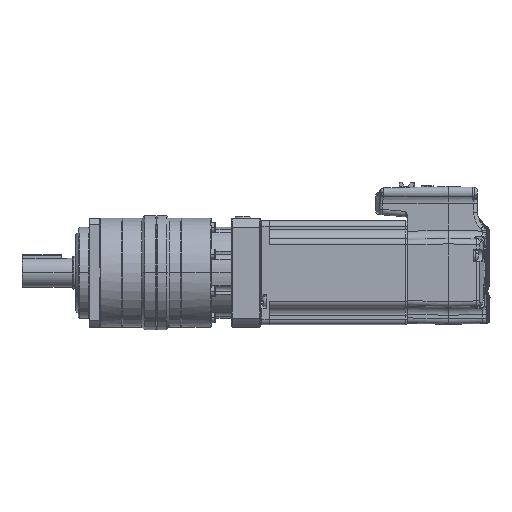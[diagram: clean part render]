
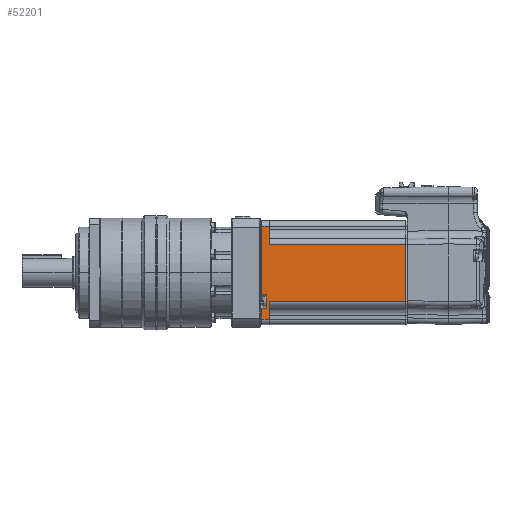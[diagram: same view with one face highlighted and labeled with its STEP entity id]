
A CAD part, left-side view. The second image highlights one B-rep face of the part: STEP entity #52201.
In plain terms, the highlighted planar face has unit normal (-1, 0, 0).
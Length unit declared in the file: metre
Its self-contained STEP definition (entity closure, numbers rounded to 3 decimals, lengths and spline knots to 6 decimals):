
#2061 = AXIS2_PLACEMENT_3D ( 'NONE', #11760, #11773, #11776 ) ;
#5262 = FACE_OUTER_BOUND ( 'NONE', #81135, .T. ) ;
#11760 = CARTESIAN_POINT ( 'NONE',  ( -0.028519, 0.0075, -0.0285 ) ) ;
#11767 = PLANE ( 'NONE',  #2061 ) ;
#11773 = DIRECTION ( 'NONE',  ( -1., 0., 0. ) ) ;
#11776 = DIRECTION ( 'NONE',  ( 0., 0., 1. ) ) ;
#13181 = CARTESIAN_POINT ( 'NONE',  ( -0.028519, 0.0875, -0.0122 ) ) ;
#13187 = CARTESIAN_POINT ( 'NONE',  ( -0.028519, 0.085, -0.0122 ) ) ;
#13191 = CARTESIAN_POINT ( 'NONE',  ( -0.028519, 0.085, -0.0196 ) ) ;
#13197 = CARTESIAN_POINT ( 'NONE',  ( -0.028519, 0.0875, -0.0196 ) ) ;
#13201 = CARTESIAN_POINT ( 'NONE',  ( -0.028519, 0.0875, -0.0255 ) ) ;
#13207 = CARTESIAN_POINT ( 'NONE',  ( -0.028519, 0.0835, -0.0255 ) ) ;
#13422 = CARTESIAN_POINT ( 'NONE',  ( -0.028519, 0.0085, -0.01577 ) ) ;
#13521 = CARTESIAN_POINT ( 'NONE',  ( -0.028519, 0.0085, 0.01577 ) ) ;
#13598 = CARTESIAN_POINT ( 'NONE',  ( -0.028519, 0.0835, 0.01577 ) ) ;
#13602 = CARTESIAN_POINT ( 'NONE',  ( -0.028519, 0.0835, -0.01577 ) ) ;
#13620 = CARTESIAN_POINT ( 'NONE',  ( -0.028519, 0.0835, 0.0255 ) ) ;
#13624 = CARTESIAN_POINT ( 'NONE',  ( -0.028519, 0.0875, 0.0255 ) ) ;
#39819 = DIRECTION ( 'NONE',  ( 0., -1., 0. ) ) ;
#39829 = VERTEX_POINT ( 'NONE', #13181 ) ;
#39830 = CARTESIAN_POINT ( 'NONE',  ( -0.028519, 0.0835, -0.0285 ) ) ;
#39833 = VERTEX_POINT ( 'NONE', #13187 ) ;
#39836 = VERTEX_POINT ( 'NONE', #13191 ) ;
#39843 = VERTEX_POINT ( 'NONE', #13197 ) ;
#39848 = VERTEX_POINT ( 'NONE', #13201 ) ;
#39854 = VERTEX_POINT ( 'NONE', #13207 ) ;
#39859 = CARTESIAN_POINT ( 'NONE',  ( -0.028519, 0.0075, -0.0255 ) ) ;
#39863 = DIRECTION ( 'NONE',  ( 0., 0., 1. ) ) ;
#39871 = CARTESIAN_POINT ( 'NONE',  ( -0.028519, 0.0875, -0.0285 ) ) ;
#39878 = CARTESIAN_POINT ( 'NONE',  ( -0.028519, 0.0075, -0.0196 ) ) ;
#39882 = DIRECTION ( 'NONE',  ( 0., 0., -1. ) ) ;
#39886 = DIRECTION ( 'NONE',  ( 0., 0., -1. ) ) ;
#39895 = CARTESIAN_POINT ( 'NONE',  ( -0.028519, 0.085, -0.0285 ) ) ;
#39898 = DIRECTION ( 'NONE',  ( 0., 1., 0. ) ) ;
#39905 = CARTESIAN_POINT ( 'NONE',  ( -0.028519, 0.0075, -0.0122 ) ) ;
#39914 = CARTESIAN_POINT ( 'NONE',  ( -0.028519, 0.0875, -0.0285 ) ) ;
#39919 = CARTESIAN_POINT ( 'NONE',  ( -0.028519, 0.0075, 0.0255 ) ) ;
#39924 = DIRECTION ( 'NONE',  ( 0., -1., 0. ) ) ;
#39933 = CARTESIAN_POINT ( 'NONE',  ( -0.028519, 0.0835, -0.0285 ) ) ;
#39937 = DIRECTION ( 'NONE',  ( 0., 0., -1. ) ) ;
#39946 = CARTESIAN_POINT ( 'NONE',  ( -0.028519, 0.0075, 0.01577 ) ) ;
#39951 = DIRECTION ( 'NONE',  ( 0., 1., 0. ) ) ;
#39963 = DIRECTION ( 'NONE',  ( 0., 0., 1. ) ) ;
#39975 = DIRECTION ( 'NONE',  ( 0., 1., 0. ) ) ;
#39987 = CARTESIAN_POINT ( 'NONE',  ( -0.028519, 0.0835, -0.01577 ) ) ;
#39994 = DIRECTION ( 'NONE',  ( 0., 1., 0. ) ) ;
#40062 = VERTEX_POINT ( 'NONE', #13422 ) ;
#40191 = VERTEX_POINT ( 'NONE', #13521 ) ;
#40296 = VERTEX_POINT ( 'NONE', #13598 ) ;
#40301 = VERTEX_POINT ( 'NONE', #13602 ) ;
#40324 = VERTEX_POINT ( 'NONE', #13620 ) ;
#40328 = VERTEX_POINT ( 'NONE', #13624 ) ;
#45633 = DIRECTION ( 'NONE',  ( 0., 0., -1. ) ) ;
#45660 = CARTESIAN_POINT ( 'NONE',  ( -0.028519, 0.0085, 0.01577 ) ) ;
#47094 = LINE ( 'NONE', #39859, #47106 ) ;
#47096 = LINE ( 'NONE', #39830, #47102 ) ;
#47100 = LINE ( 'NONE', #39878, #47114 ) ;
#47102 = VECTOR ( 'NONE', #39863, 1. ) ;
#47104 = LINE ( 'NONE', #39871, #47110 ) ;
#47106 = VECTOR ( 'NONE', #39819, 1. ) ;
#47108 = LINE ( 'NONE', #39895, #47118 ) ;
#47110 = VECTOR ( 'NONE', #39886, 1. ) ;
#47112 = LINE ( 'NONE', #39914, #47126 ) ;
#47114 = VECTOR ( 'NONE', #39898, 1. ) ;
#47116 = LINE ( 'NONE', #39905, #47122 ) ;
#47118 = VECTOR ( 'NONE', #39882, 1. ) ;
#47120 = LINE ( 'NONE', #39919, #47130 ) ;
#47122 = VECTOR ( 'NONE', #39924, 1. ) ;
#47124 = LINE ( 'NONE', #39933, #47134 ) ;
#47126 = VECTOR ( 'NONE', #39937, 1. ) ;
#47128 = LINE ( 'NONE', #39946, #47138 ) ;
#47130 = VECTOR ( 'NONE', #39951, 1. ) ;
#47134 = VECTOR ( 'NONE', #39963, 1. ) ;
#47136 = LINE ( 'NONE', #39987, #47144 ) ;
#47138 = VECTOR ( 'NONE', #39975, 1. ) ;
#47144 = VECTOR ( 'NONE', #39994, 1. ) ;
#47276 = LINE ( 'NONE', #45660, #47280 ) ;
#47280 = VECTOR ( 'NONE', #45633, 1. ) ;
#52201 = ADVANCED_FACE ( 'NONE', ( #5262 ), #11767, .T. ) ;
#67496 = EDGE_CURVE ( 'NONE', #39854, #40301, #47096, .T. ) ;
#67499 = EDGE_CURVE ( 'NONE', #39848, #39854, #47094, .T. ) ;
#67503 = EDGE_CURVE ( 'NONE', #39843, #39848, #47104, .T. ) ;
#67506 = EDGE_CURVE ( 'NONE', #39836, #39843, #47100, .T. ) ;
#67510 = EDGE_CURVE ( 'NONE', #39833, #39836, #47108, .T. ) ;
#67514 = EDGE_CURVE ( 'NONE', #39829, #39833, #47116, .T. ) ;
#67517 = EDGE_CURVE ( 'NONE', #40328, #39829, #47112, .T. ) ;
#67520 = EDGE_CURVE ( 'NONE', #40324, #40328, #47120, .T. ) ;
#67524 = EDGE_CURVE ( 'NONE', #40296, #40324, #47124, .T. ) ;
#67527 = EDGE_CURVE ( 'NONE', #40191, #40296, #47128, .T. ) ;
#67534 = EDGE_CURVE ( 'NONE', #40062, #40301, #47136, .T. ) ;
#67668 = EDGE_CURVE ( 'NONE', #40191, #40062, #47276, .T. ) ;
#80339 = ORIENTED_EDGE ( 'NONE', *, *, #67534, .F. ) ;
#80341 = ORIENTED_EDGE ( 'NONE', *, *, #67496, .T. ) ;
#80343 = ORIENTED_EDGE ( 'NONE', *, *, #67499, .T. ) ;
#80345 = ORIENTED_EDGE ( 'NONE', *, *, #67503, .T. ) ;
#80347 = ORIENTED_EDGE ( 'NONE', *, *, #67506, .T. ) ;
#80348 = ORIENTED_EDGE ( 'NONE', *, *, #67510, .T. ) ;
#80350 = ORIENTED_EDGE ( 'NONE', *, *, #67514, .T. ) ;
#80351 = ORIENTED_EDGE ( 'NONE', *, *, #67517, .T. ) ;
#80353 = ORIENTED_EDGE ( 'NONE', *, *, #67520, .T. ) ;
#80355 = ORIENTED_EDGE ( 'NONE', *, *, #67524, .T. ) ;
#80357 = ORIENTED_EDGE ( 'NONE', *, *, #67527, .T. ) ;
#80359 = ORIENTED_EDGE ( 'NONE', *, *, #67668, .F. ) ;
#81135 = EDGE_LOOP ( 'NONE', ( #80359, #80357, #80355, #80353, #80351, #80350, #80348, #80347, #80345, #80343, #80341, #80339 ) ) ;
